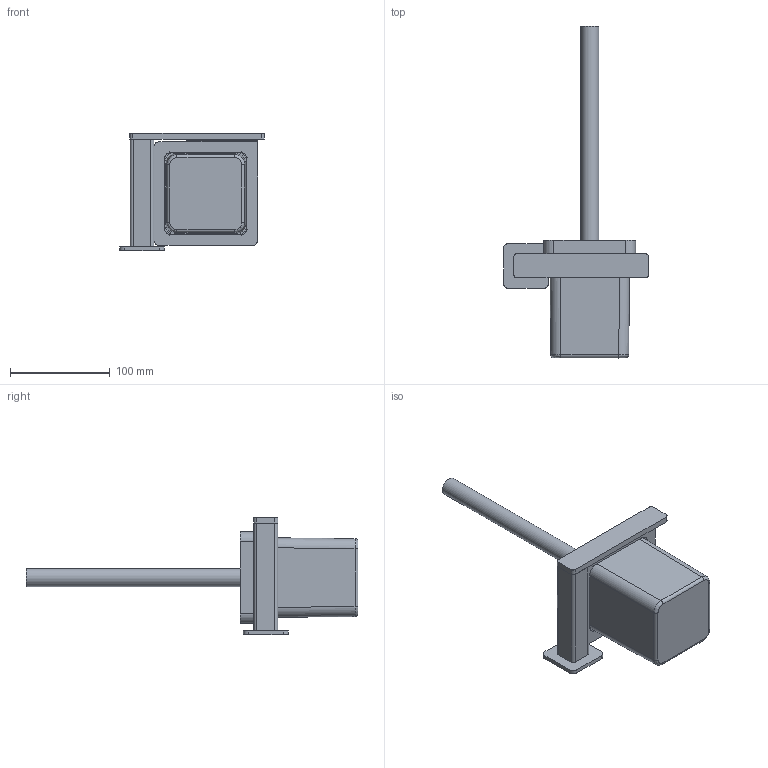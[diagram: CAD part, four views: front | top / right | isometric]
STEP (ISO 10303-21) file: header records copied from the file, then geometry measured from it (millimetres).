
FILE_DESCRIPTION(/* description */ (''),/* implementation_level */ '2;1');
FILE_NAME(/* name */ 'c:\worker\convert-fusion-apr-2019\tmp\job-1\32\output\files\ea9ca744-1e57-420a-b707-869c68fa6d59\030b39a7-697a-46f4-81f6-fad27a53ad1d.zip.stp',/* time_stamp */ '2019-04-04T10:36:12+00:00',/* author */ (''),/* organization */ (''),/* preprocessor_version */ 'ST-DEVELOPER v18',/* originating_system */ 'Autodesk Translation Framework v8.2.0.1029',/* authorisation */ '');
FILE_SCHEMA (('AUTOMOTIVE_DESIGN { 1 0 10303 214 3 1 1 }'));
Length unit declared in the file: millimetre
Products named in the file (1): !NL80620
Bounding box: 145.35 x 333 x 118 mm (x, y, z)
Volume: 565456.2 mm3; surface area: 152645.6 mm2
Topology: 5 solids, 5 shells, 175 faces, 438 edges, 276 vertices
Faces by surface type: cylinder 76, plane 71, bspline 24, torus 4
Full cylindrical faces by diameter (mm): 18 x1
Entity records: 7493 total; most frequent: CARTESIAN_POINT 3322, ORIENTED_EDGE 876, DIRECTION 856, EDGE_CURVE 438, AXIS2_PLACEMENT_3D 312, VERTEX_POINT 276, LINE 232, VECTOR 232
